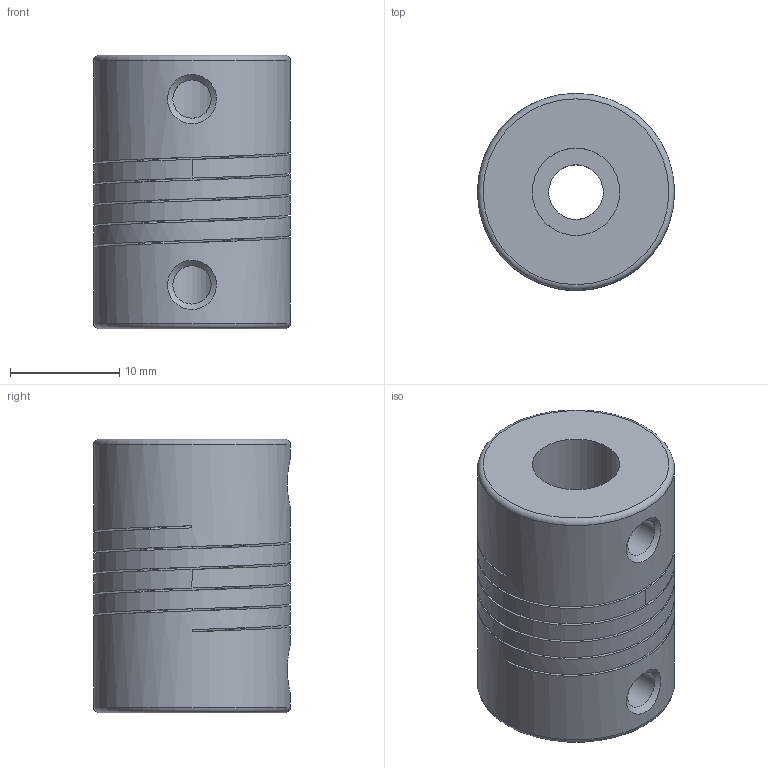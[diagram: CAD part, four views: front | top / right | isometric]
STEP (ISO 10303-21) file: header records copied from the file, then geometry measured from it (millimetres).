
FILE_DESCRIPTION(('FreeCAD Model'),'2;1');
FILE_NAME('Open CASCADE Shape Model','2021-05-04T13:18:19',('Author'),( ''),'Open CASCADE STEP processor 7.5','FreeCAD','Unknown');
FILE_SCHEMA(('AUTOMOTIVE_DESIGN { 1 0 10303 214 1 1 1 1 }'));
Length unit declared in the file: millimetre
Products named in the file (3): ť󡬼; SOLID; COMPOUND
Assembly tree (2 placements, depth 2):
  ť󡬼
    SOLID
    COMPOUND
Bounding box: 18 x 18 x 25 mm (x, y, z)
Volume: 4366.1 mm3; surface area: 4091.5 mm2
Topology: 1 solids, 1 shells, 28 faces, 75 edges, 52 vertices
Faces by surface type: cylinder 16, plane 6, bspline 4, torus 2
Full cylindrical faces by diameter (mm): 3.5 x2, 5 x1, 8 x1, 12 x2, 18 x2
Entity records: 13211 total; most frequent: CARTESIAN_POINT 11875, DIRECTION 160, ORIENTED_EDGE 148, PCURVE 148, DEFINITIONAL_REPRESENTATION 148, B_SPLINE_CURVE_WITH_KNOTS 121, LINE 82, VECTOR 82
